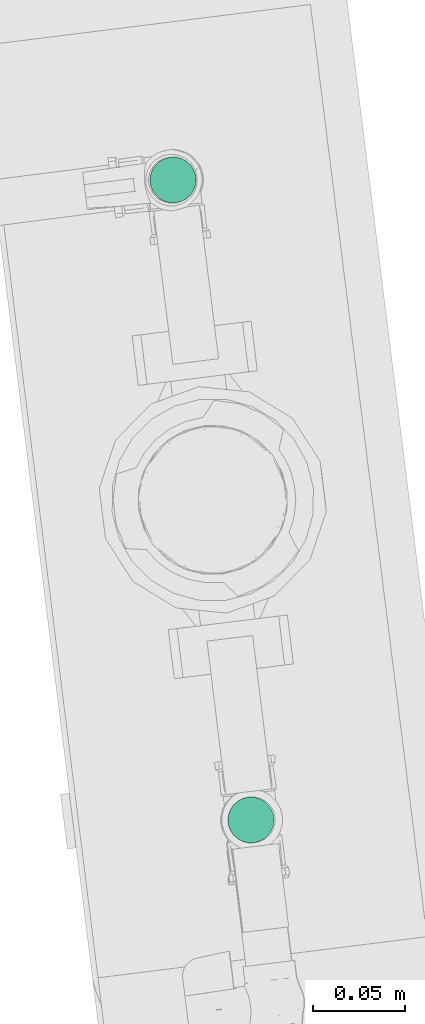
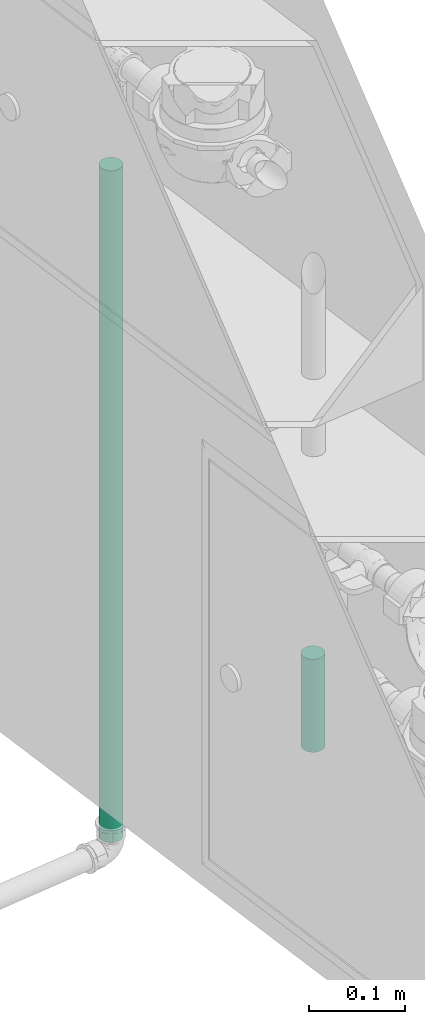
# One storey, part 47 of 97: 2 flow segments.
"""IFC2X3 building model written with IfcOpenShell, lengths in centimetres."""

from ifc_helpers import new_model, entity, si_unit, converted_unit, derived_unit, direction, frame, frame_2d, origin, origin_2d_with_axis, place, context, subcontext, project, spatial, circle, extrude, type_object, element, save


model = new_model("IFC2X3")

# Units and contexts
model_context = context("Model", 3, precision=0.001, world=origin(), true_north=direction((6.12303176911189e-17, 1.0)))
body_context = subcontext(model_context, "Body", "Model", "MODEL_VIEW")
ifc_project = project(units=[si_unit("LENGTHUNIT", "METRE", prefix="CENTI"), si_unit("AREAUNIT", "SQUARE_METRE"), si_unit("VOLUMEUNIT", "CUBIC_METRE"), converted_unit("PLANEANGLEUNIT", "DEGREE", entity("IfcRatioMeasure", 0.0174532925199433), si_unit("PLANEANGLEUNIT", "RADIAN"), dimensions=[0, 0, 0, 0, 0, 0, 0]), si_unit("MASSUNIT", "GRAM", prefix="KILO"), derived_unit("MASSDENSITYUNIT", [(si_unit("MASSUNIT", "GRAM", prefix="KILO"), 1), (si_unit("LENGTHUNIT", "METRE"), -3)]), derived_unit("MOMENTOFINERTIAUNIT", [(si_unit("LENGTHUNIT", "METRE"), 4)]), si_unit("TIMEUNIT", "SECOND"), si_unit("FREQUENCYUNIT", "HERTZ"), si_unit("THERMODYNAMICTEMPERATUREUNIT", "DEGREE_CELSIUS"), derived_unit("THERMALTRANSMITTANCEUNIT", [(si_unit("MASSUNIT", "GRAM", prefix="KILO"), 1), (si_unit("THERMODYNAMICTEMPERATUREUNIT", "KELVIN"), -1), (si_unit("TIMEUNIT", "SECOND"), -3)]), derived_unit("VOLUMETRICFLOWRATEUNIT", [(si_unit("LENGTHUNIT", "METRE"), 3), (si_unit("TIMEUNIT", "SECOND"), -1)]), si_unit("ELECTRICCURRENTUNIT", "AMPERE"), si_unit("ELECTRICVOLTAGEUNIT", "VOLT"), si_unit("POWERUNIT", "WATT"), si_unit("FORCEUNIT", "NEWTON", prefix="KILO"), si_unit("ILLUMINANCEUNIT", "LUX"), si_unit("LUMINOUSFLUXUNIT", "LUMEN"), si_unit("LUMINOUSINTENSITYUNIT", "CANDELA"), derived_unit("USERDEFINED", [(si_unit("MASSUNIT", "GRAM", prefix="KILO"), -1), (si_unit("LENGTHUNIT", "METRE"), -2), (si_unit("TIMEUNIT", "SECOND"), 3), (si_unit("LUMINOUSFLUXUNIT", "LUMEN"), 1)]), derived_unit("LINEARVELOCITYUNIT", [(si_unit("LENGTHUNIT", "METRE"), 1), (si_unit("TIMEUNIT", "SECOND"), -1)]), si_unit("PRESSUREUNIT", "PASCAL"), derived_unit("USERDEFINED", [(si_unit("LENGTHUNIT", "METRE"), -2), (si_unit("MASSUNIT", "GRAM", prefix="KILO"), 1), (si_unit("TIMEUNIT", "SECOND"), -2)]), derived_unit("LINEARFORCEUNIT", [(si_unit("MASSUNIT", "GRAM", prefix="KILO"), 1), (si_unit("LENGTHUNIT", "METRE"), 1), (si_unit("TIMEUNIT", "SECOND"), -2), (si_unit("LENGTHUNIT", "METRE"), -1)]), derived_unit("PLANARFORCEUNIT", [(si_unit("MASSUNIT", "GRAM", prefix="KILO"), 1), (si_unit("LENGTHUNIT", "METRE"), 1), (si_unit("TIMEUNIT", "SECOND"), -2), (si_unit("LENGTHUNIT", "METRE"), -2)])], contexts=[model_context])

# Site, building, storey
site_placement = place(None, origin())
site = spatial("IfcSite", under=ifc_project, at=site_placement, Name="Default", CompositionType="ELEMENT")
building_placement = place(site_placement, origin())
building = spatial("IfcBuilding", under=site, at=building_placement, Name="HIDROSSANITÁRIO", CompositionType="ELEMENT")
storey_placement = place(building_placement, frame((0.0, 0.0, -260.0)))
storey = spatial("IfcBuildingStorey", under=building, at=storey_placement, Name="TÉRREO-HID", CompositionType="ELEMENT", Elevation=-260.0)

# Flow segments
pipe_segment_type = type_object("IfcPipeSegmentType", Name="Tipos de tubos:Tubo Marrom - Água Fria - Soldável", PredefinedType="NOTDEFINED")
flow_segment_1_placement = place(storey_placement, origin())
element("IfcFlowSegment", 1, at=flow_segment_1_placement, inside=storey, type_object=pipe_segment_type, Name="Tipos de tubos:Tubo Marrom - Água Fria - Soldável", ObjectType="Tipos de tubos:Tubo Marrom - Água Fria - Soldável", context=body_context, shape_type="SweptSolid", body=[
    extrude(circle(Radius=1.25, at=frame_2d((0.0, -4.33146851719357e-13), x_axis=(1.0, 0.0))), frame((-2446.40153316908, 3291.08567217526, -13.46)), (0.0, 0.0, 1.0), 85.4050000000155),
])
flow_segment_2_placement = place(storey_placement, origin())
element("IfcFlowSegment", 2, at=flow_segment_2_placement, inside=storey, type_object=pipe_segment_type, Name="Tipos de tubos:Tubo Marrom - Água Fria - Soldável", ObjectType="Tipos de tubos:Tubo Marrom - Água Fria - Soldável", context=body_context, shape_type="SweptSolid", body=[
    extrude(circle(Radius=1.25, at=origin_2d_with_axis()), frame((-2442.17202722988, 3256.34198160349, 17.6246769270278)), (0.0, 0.0, 1.0), 11.8200000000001),
])

save(model, "model.ifc")
